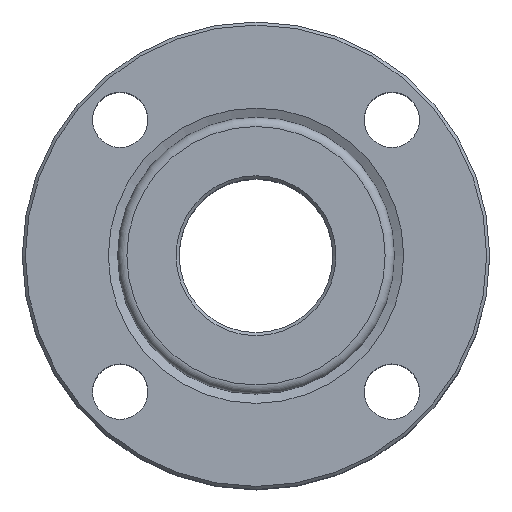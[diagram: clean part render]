
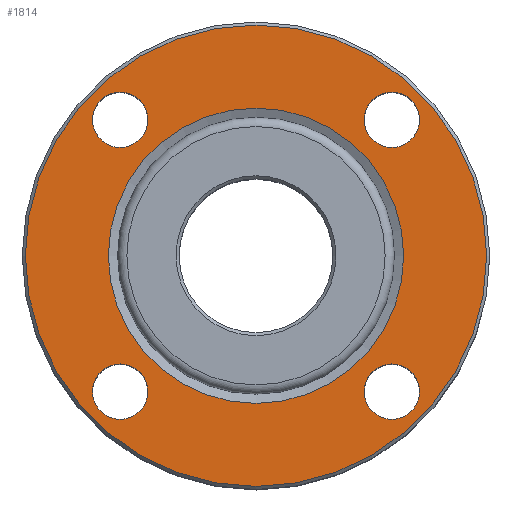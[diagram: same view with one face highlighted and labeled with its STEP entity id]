
A CAD part, top view. The second image highlights one B-rep face of the part: STEP entity #1814.
In plain terms, the highlighted planar face has unit normal (0, 0, 1).
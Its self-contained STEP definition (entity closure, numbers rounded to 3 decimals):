
#72=PLANE('',#1992);
#308=FACE_BOUND('',#445,.T.);
#309=FACE_BOUND('',#446,.T.);
#310=FACE_BOUND('',#447,.T.);
#311=FACE_BOUND('',#448,.T.);
#312=FACE_BOUND('',#449,.T.);
#329=FACE_OUTER_BOUND('',#444,.T.);
#444=EDGE_LOOP('',(#1279));
#445=EDGE_LOOP('',(#1280));
#446=EDGE_LOOP('',(#1281));
#447=EDGE_LOOP('',(#1282));
#448=EDGE_LOOP('',(#1283));
#449=EDGE_LOOP('',(#1284));
#656=CIRCLE('',#1991,75.);
#657=CIRCLE('',#1993,9.);
#658=CIRCLE('',#1994,9.);
#659=CIRCLE('',#1995,9.);
#660=CIRCLE('',#1996,9.);
#661=CIRCLE('',#1997,48.);
#805=VERTEX_POINT('',#3069);
#806=VERTEX_POINT('',#3073);
#807=VERTEX_POINT('',#3075);
#808=VERTEX_POINT('',#3077);
#809=VERTEX_POINT('',#3079);
#810=VERTEX_POINT('',#3081);
#992=EDGE_CURVE('',#805,#805,#656,.T.);
#993=EDGE_CURVE('',#806,#806,#657,.T.);
#994=EDGE_CURVE('',#807,#807,#658,.T.);
#995=EDGE_CURVE('',#808,#808,#659,.T.);
#996=EDGE_CURVE('',#809,#809,#660,.T.);
#997=EDGE_CURVE('',#810,#810,#661,.T.);
#1279=ORIENTED_EDGE('',*,*,#992,.F.);
#1280=ORIENTED_EDGE('',*,*,#993,.F.);
#1281=ORIENTED_EDGE('',*,*,#994,.F.);
#1282=ORIENTED_EDGE('',*,*,#995,.F.);
#1283=ORIENTED_EDGE('',*,*,#996,.F.);
#1284=ORIENTED_EDGE('',*,*,#997,.T.);
#1814=ADVANCED_FACE('',(#329,#308,#309,#310,#311,#312),#72,.F.);
#1991=AXIS2_PLACEMENT_3D('',#3071,#2262,#2263);
#1992=AXIS2_PLACEMENT_3D('',#3072,#2264,#2265);
#1993=AXIS2_PLACEMENT_3D('',#3074,#2266,#2267);
#1994=AXIS2_PLACEMENT_3D('',#3076,#2268,#2269);
#1995=AXIS2_PLACEMENT_3D('',#3078,#2270,#2271);
#1996=AXIS2_PLACEMENT_3D('',#3080,#2272,#2273);
#1997=AXIS2_PLACEMENT_3D('',#3082,#2274,#2275);
#2262=DIRECTION('center_axis',(0.,0.,-1.));
#2263=DIRECTION('ref_axis',(-1.,0.,0.));
#2264=DIRECTION('center_axis',(0.,0.,-1.));
#2265=DIRECTION('ref_axis',(-1.,0.,0.));
#2266=DIRECTION('center_axis',(0.,0.,1.));
#2267=DIRECTION('ref_axis',(1.,0.,0.));
#2268=DIRECTION('center_axis',(0.,0.,1.));
#2269=DIRECTION('ref_axis',(1.,0.,0.));
#2270=DIRECTION('center_axis',(0.,0.,1.));
#2271=DIRECTION('ref_axis',(1.,0.,0.));
#2272=DIRECTION('center_axis',(0.,0.,1.));
#2273=DIRECTION('ref_axis',(1.,0.,0.));
#2274=DIRECTION('center_axis',(0.,0.,-1.));
#2275=DIRECTION('ref_axis',(0.,1.,0.));
#3069=CARTESIAN_POINT('',(75.,0.,48.5));
#3071=CARTESIAN_POINT('Origin',(0.,0.,48.5));
#3072=CARTESIAN_POINT('Origin',(0.,0.,48.5));
#3073=CARTESIAN_POINT('',(-53.194,44.194,48.5));
#3074=CARTESIAN_POINT('Origin',(-44.194,44.194,48.5));
#3075=CARTESIAN_POINT('',(-53.194,-44.194,48.5));
#3076=CARTESIAN_POINT('Origin',(-44.194,-44.194,48.5));
#3077=CARTESIAN_POINT('',(35.194,-44.194,48.5));
#3078=CARTESIAN_POINT('Origin',(44.194,-44.194,48.5));
#3079=CARTESIAN_POINT('',(35.194,44.194,48.5));
#3080=CARTESIAN_POINT('Origin',(44.194,44.194,48.5));
#3081=CARTESIAN_POINT('',(0.,-48.,48.5));
#3082=CARTESIAN_POINT('Origin',(0.,0.,48.5));
